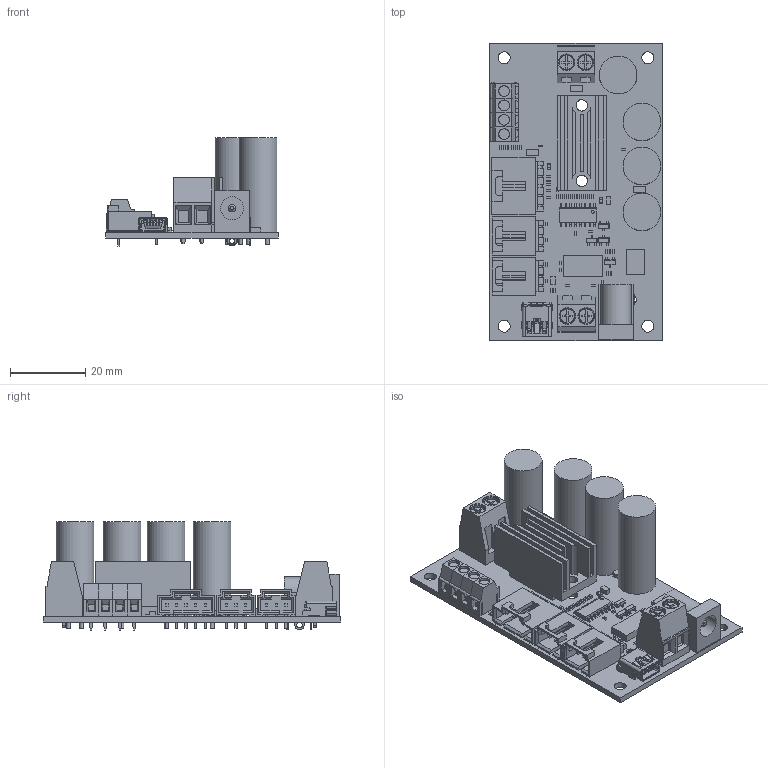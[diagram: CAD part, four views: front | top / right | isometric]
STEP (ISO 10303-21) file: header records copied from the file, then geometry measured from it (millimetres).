
FILE_DESCRIPTION(/* description */ ('Alibre Inc.'),/* implementation_level */ '2;1');
FILE_NAME(/* name */ 'export0',/* time_stamp */ '2018-09-11T09:51:15-06:00',/* author */ (''),/* organization */ (''),/* preprocessor_version */ 'ST-DEVELOPER v17',/* originating_system */ 'Alibre',/* authorisation */ '');
FILE_SCHEMA (('CONFIG_CONTROL_DESIGN'));
Length unit declared in the file: millimetre
Products named in the file (131): ID_1; ID_2; ID_3; ID_4; ID_5; ID_6; ID_7; ID_8; ID_9; ID_10; ID_11; ID_12; ID_13; ID_14; ID_15; ID_16; ID_17; ID_18; ID_19; ID_20; ID_21; ID_22; ID_23; ID_24; ID_25; ID_26; ID_27; ID_28; ID_29; ID_30; ID_31; ID_32; ID_33; ID_34; ID_35; ID_36; ID_37; ID_38; ID_39; ID_40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
Bounding box: 45.72 x 78.74 x 28.7 mm (x, y, z)
Volume: 21812.1 mm3; surface area: 24527.4 mm2
Topology: 148 solids, 148 shells, 2889 faces, 7302 edges, 4718 vertices
Faces by surface type: plane 2241, cylinder 516, bspline 66, torus 42, cone 24
Full cylindrical faces by diameter (mm): 0.762 x15, 0.8 x5, 0.965 x11, 1 x8, 1.067 x8, 1.321 x4, 1.6 x7, 3 x4, 3.175 x4, 10 x4
Entity records: 64022 total; most frequent: CARTESIAN_POINT 10159, ORIENTED_EDGE 8028, DIRECTION 7312, EDGE_CURVE 4014, VECTOR 3244, LINE 3244, VERTEX_POINT 2606, AXIS2_PLACEMENT_3D 2606
